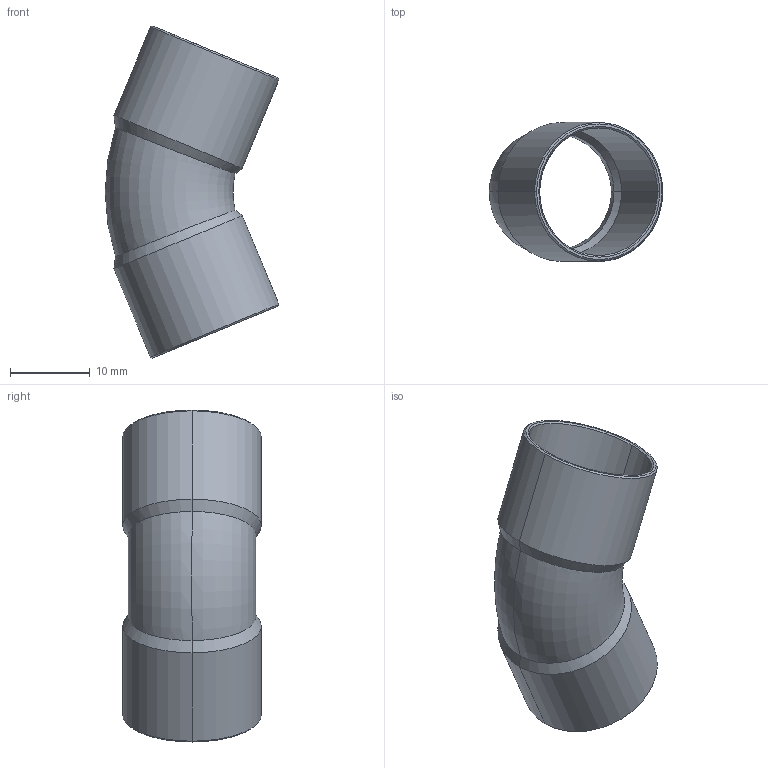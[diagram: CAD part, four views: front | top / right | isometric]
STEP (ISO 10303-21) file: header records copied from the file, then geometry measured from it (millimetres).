
FILE_DESCRIPTION((''),'2;1');
FILE_NAME('P:\Bouwmaten\z-maattekeningen 3D\5000\5040\1504116.stp','2005-10-12T14:31:45',('Kris'),(''),'Autodesk Inventor 8','Autodesk Inventor 8','');
FILE_SCHEMA(('AUTOMOTIVE_DESIGN { 1 0 10303 214 1 1 1 1 }'));
Length unit declared in the file: millimetre
Products named in the file (1): 1504116
Bounding box: 21.75 x 17.4 x 41.61 mm (x, y, z)
Volume: 1339.3 mm3; surface area: 3887.2 mm2
Topology: 1 solids, 1 shells, 30 faces, 60 edges, 32 vertices
Faces by surface type: cone 12, bspline 9, torus 4, cylinder 4, plane 1
Entity records: 1027 total; most frequent: CARTESIAN_POINT 414, DIRECTION 124, ORIENTED_EDGE 120, EDGE_CURVE 60, AXIS2_PLACEMENT_3D 50, VERTEX_POINT 32, EDGE_LOOP 32, FACE_OUTER_BOUND 30
